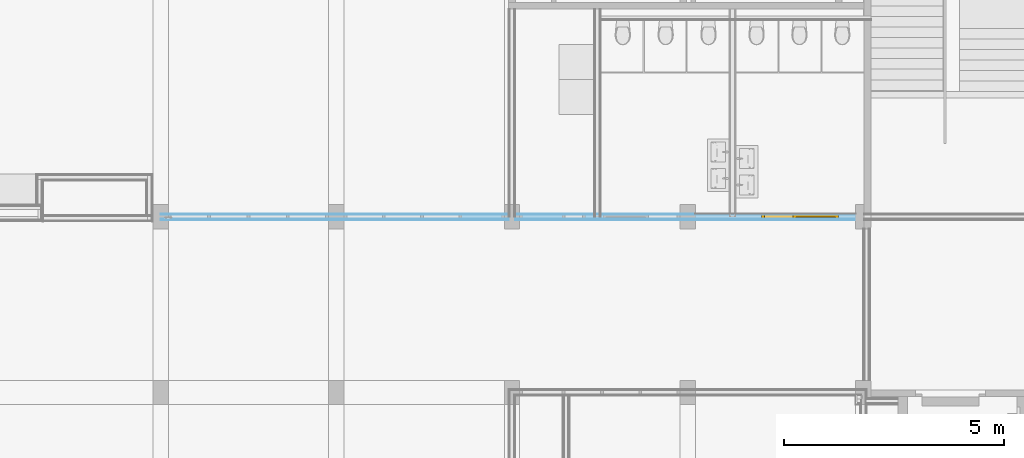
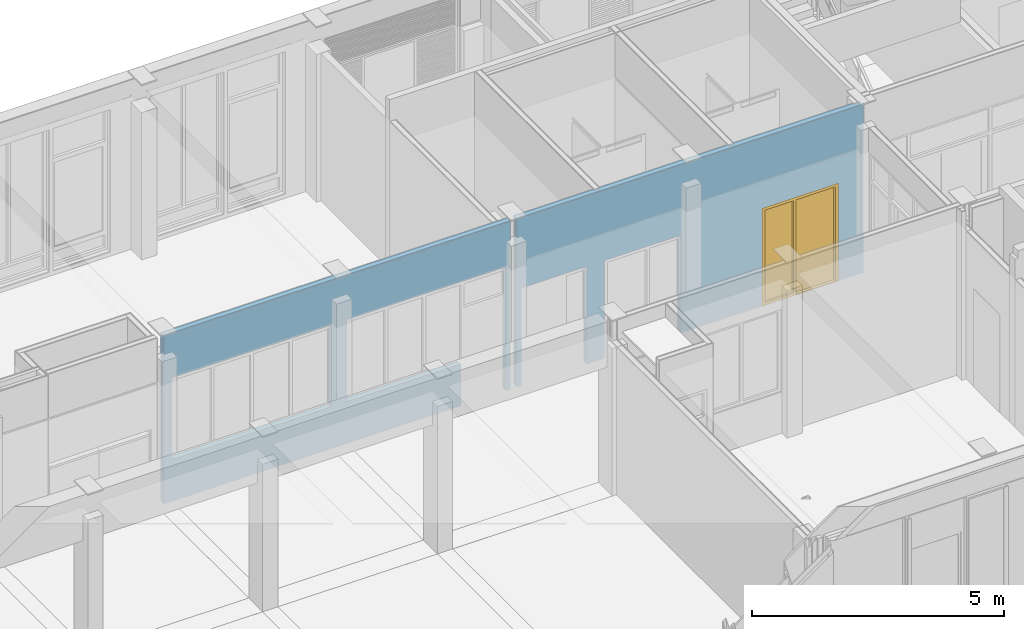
# One storey, part 63 of 109: 1 door, 5 openings, 1 element without a shape of its own, plus 5 elements that do not belong to this part.
"""IFC2X3 building model written with IfcOpenShell, lengths in millimetres."""

from ifc_helpers import new_model, entity, si_unit, converted_unit, derived_unit, money_unit, direction, frame, origin_with_axes, place, context, subcontext, project, spatial, open_shell, faceted_brep, surface_model, material, type_object, element, fill, aggregate, save


model = new_model("IFC2X3")

# Units and contexts
model_context = context("Model", 3, precision=0.01, world=origin_with_axes(), true_north=direction((0.0, 1.0)))
body_context = subcontext(model_context, "Body", "Model", "MODEL_VIEW")
ifc_project = project(units=[si_unit("LENGTHUNIT", "METRE", prefix="MILLI"), si_unit("AREAUNIT", "SQUARE_METRE"), si_unit("VOLUMEUNIT", "CUBIC_METRE"), converted_unit("PLANEANGLEUNIT", "DEGREE", entity("IfcPlaneAngleMeasure", 0.0174532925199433), si_unit("PLANEANGLEUNIT", "RADIAN"), dimensions=[0, 0, 0, 0, 0, 0, 0]), money_unit("EUR"), converted_unit("TIMEUNIT", "Year", entity("IfcTimeMeasure", 31557600.0), si_unit("TIMEUNIT", "SECOND"), dimensions=[0, 0, 1, 0, 0, 0, 0]), si_unit("MASSUNIT", "GRAM", prefix="KILO"), si_unit("THERMODYNAMICTEMPERATUREUNIT", "DEGREE_CELSIUS"), si_unit("LUMINOUSINTENSITYUNIT", "LUMEN"), si_unit("ENERGYUNIT", "JOULE", prefix="MEGA"), derived_unit("THERMALCONDUCTANCEUNIT", [(si_unit("POWERUNIT", "WATT"), 1), (si_unit("LENGTHUNIT", "METRE"), -1), (si_unit("THERMODYNAMICTEMPERATUREUNIT", "KELVIN"), -1)]), derived_unit("SPECIFICHEATCAPACITYUNIT", [(si_unit("ENERGYUNIT", "JOULE"), 1), (si_unit("MASSUNIT", "GRAM", prefix="KILO"), -1), (si_unit("THERMODYNAMICTEMPERATUREUNIT", "KELVIN"), -1)]), derived_unit("MASSDENSITYUNIT", [(si_unit("MASSUNIT", "GRAM", prefix="KILO"), 1), (si_unit("VOLUMEUNIT", "CUBIC_METRE"), -1)])], contexts=[model_context])

# Site, building, storey
site_placement = place(None, origin_with_axes())
site = spatial("IfcSite", under=ifc_project, at=site_placement, Name="<site naam>", CompositionType="ELEMENT")
building_placement = place(site_placement, origin_with_axes())
building = spatial("IfcBuilding", under=site, at=building_placement, Name="<Naam gebouw>", CompositionType="ELEMENT")
storey_placement = place(building_placement, origin_with_axes())
storey = spatial("IfcBuildingStorey", under=building, at=storey_placement, Name="00 Begane grond", CompositionType="ELEMENT", Elevation=0.0)

# Door
door_style = type_object("IfcDoorStyle", Name="D1 zl1-b 27", ConstructionType="NOTDEFINED", OperationType="SINGLE_SWING_RIGHT", ParameterTakesPrecedence=False, Sizeable=False)
wall_placement = place(storey_placement, frame((32000.05040030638, 11999.96371028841, 0.0), z_axis=(0.0, 0.0, 1.0), x_axis=(0.999999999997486, 2.242345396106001e-06, 0.0)))
opening_4_placement = place(wall_placement, frame((14554.32530861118, 0.0, 0.0), z_axis=(0.0, 0.0, 1.0), x_axis=(1.0, 0.0, 0.0)))
door_placement = place(opening_4_placement, frame((-874.999999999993, 0.0, 0.0), z_axis=(0.0, 0.0, 1.0), x_axis=(1.0, 0.0, 0.0)))
door = element("IfcDoor", 1, at=door_placement, inside=storey, type_object=door_style, Name="22_BI-C-01 sp_305", ObjectType="DOOR", OverallHeight=2367.0, OverallWidth=1750.0, context=body_context, shape_type="SurfaceModel", body=[
    faceted_brep([(766.0001658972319, -1.032391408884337, 12.00000000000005), (783.0001658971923, -1.03242952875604, 12.00000000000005), (782.9999999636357, -75.03242952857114, 12.00000000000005), (1682.999999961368, -75.03444763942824, 11.99999999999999), (1683.000165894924, -1.034447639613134, 11.99999999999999), (1700.000165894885, -1.034485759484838, 11.99999999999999), (1700.000255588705, 38.96551424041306, 11.99999999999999), (766.0002555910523, 38.96760859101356, 12.00000000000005), (766.0001658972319, -1.032391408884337, 0.0), (783.0001658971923, -1.03242952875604, 0.0), (782.9999999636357, -75.03242952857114, 0.0), (1682.999999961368, -75.03444763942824, 0.0), (1683.000165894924, -1.034447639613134, 0.0), (1700.000165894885, -1.034485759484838, 0.0), (1700.000255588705, 38.96551424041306, 0.0), (766.0002555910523, 38.96760859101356, 0.0)], [[[0, 1, 2, 3, 4, 5, 6, 7]], [[1, 0, 8, 9]], [[10, 2, 1, 9]], [[2, 10, 11, 3]], [[3, 11, 12, 4]], [[5, 4, 12, 13]], [[13, 14, 6, 5]], [[15, 7, 6, 14]], [[8, 0, 7, 15]], [[9, 8, 15, 14, 13, 12, 11, 10]]]),
    faceted_brep([(0.0002555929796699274, 38.96932622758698, 0.0), (67.00025559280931, 38.96917599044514, 0.0), (66.99999996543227, -75.03082400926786, 0.0), (-3.439737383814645e-08, -75.03067377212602, 0.0), (0.0002555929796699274, 38.96932622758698, 2300.0), (67.00025559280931, 38.96917599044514, 2300.0), (67.00025559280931, 38.96917599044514, 66.99999999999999), (66.99999996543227, -75.03082400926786, 67.0), (66.99999996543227, -75.03082400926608, 2300.0), (-3.439737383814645e-08, -75.03067377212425, 2300.0)], [[[0, 1, 2, 3]], [[0, 4, 5, 6, 1]], [[1, 6, 7, 2]], [[3, 2, 7, 8, 9]], [[4, 0, 3, 9]], [[5, 4, 9, 8]], [[6, 5, 8, 7]]]),
    faceted_brep([(783.0001658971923, -1.03242952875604, 0.0), (783.0001658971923, -1.03242952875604, 2300.0), (782.9999999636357, -75.03242952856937, 2300.0), (782.9999999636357, -75.03242952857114, 0.0), (766.0001658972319, -1.032391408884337, 2300.0), (766.0001658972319, -1.032391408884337, 0.0), (766.0002555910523, 38.96760859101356, 2300.0), (716.000255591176, 38.96772070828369, 2300.0), (715.9999999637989, -75.03227929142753, 2300.0), (715.9999999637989, -75.0322792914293, 0.0), (715.9999999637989, -75.0322792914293, 66.99999999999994), (716.000255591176, 38.96772070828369, 0.0), (766.0002555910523, 38.96760859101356, 0.0), (716.000255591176, 38.96772070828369, 66.99999999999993)], [[[0, 1, 2, 3]], [[4, 1, 0, 5]], [[4, 6, 7, 8, 2, 1]], [[9, 3, 2, 8, 10]], [[5, 0, 3, 9, 11, 12]], [[6, 4, 5, 12]], [[6, 12, 11, 13, 7]], [[13, 10, 8, 7]], [[11, 9, 10, 13]]]),
    faceted_brep([(67.00025559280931, 38.96917599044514, 66.99999999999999), (67.00025559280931, 38.96917599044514, 0.0), (66.99999996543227, -75.03082400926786, 0.0), (66.99999996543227, -75.03082400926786, 67.0), (716.000255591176, 38.96772070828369, 66.99999999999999), (716.000255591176, 38.96772070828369, 0.0), (715.9999999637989, -75.0322792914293, 0.0), (715.9999999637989, -75.0322792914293, 67.0)], [[[0, 1, 2, 3]], [[0, 4, 5, 1]], [[1, 5, 6, 2]], [[3, 2, 6, 7]], [[4, 0, 3, 7]], [[5, 4, 7, 6]]]),
    faceted_brep([(1700.000165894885, -1.034485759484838, 2300.0), (1683.000165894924, -1.034447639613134, 2300.0), (1682.999999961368, -75.03444763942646, 2300.0), (1749.999999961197, -75.03459787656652, 2300.0), (1750.000255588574, 38.9654021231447, 2300.0), (1700.000255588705, 38.96551424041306, 2300.0), (1700.000165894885, -1.034485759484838, 0.0), (1683.000165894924, -1.034447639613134, 0.0), (1682.999999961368, -75.03444763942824, 0.0), (1749.999999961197, -75.0345978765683, 0.0), (1750.000255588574, 38.9654021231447, 0.0), (1700.000255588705, 38.96551424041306, 0.0)], [[[0, 1, 2, 3, 4, 5]], [[1, 0, 6, 7]], [[1, 7, 8, 2]], [[3, 2, 8, 9]], [[4, 3, 9, 10]], [[11, 5, 4, 10]], [[0, 5, 11, 6]], [[6, 11, 10, 9, 8, 7]]]),
    faceted_brep([(766.0002555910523, 38.96760859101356, 2317.0), (766.0002555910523, 38.96760859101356, 2300.0), (716.000255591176, 38.96772070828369, 2300.0), (67.00025559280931, 38.96917599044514, 2300.0), (0.0002555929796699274, 38.96932622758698, 2300.0), (0.0002555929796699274, 38.96932622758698, 2367.0), (1750.000255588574, 38.9654021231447, 2367.0), (1750.000255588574, 38.9654021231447, 2300.0), (1700.000255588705, 38.96551424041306, 2300.0), (1700.000255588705, 38.96551424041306, 2317.0), (766.0001658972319, -1.032391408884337, 2317.0), (766.0001658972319, -1.032391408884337, 2300.0), (1683.000165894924, -1.034447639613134, 2300.0), (1682.999999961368, -75.03444763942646, 2300.0), (782.9999999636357, -75.03242952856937, 2300.0), (715.9999999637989, -75.03227929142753, 2300.0), (66.99999996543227, -75.03082400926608, 2300.0), (-3.439737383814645e-08, -75.03067377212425, 2300.0), (-3.439737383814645e-08, -75.03067377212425, 2367.0), (1749.999999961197, -75.03459787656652, 2367.0), (1749.999999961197, -75.03459787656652, 2300.0), (1700.000165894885, -1.034485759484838, 2300.0), (1700.000165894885, -1.034485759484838, 2317.0)], [[[0, 1, 2, 3, 4, 5, 6, 7, 8, 9]], [[1, 0, 10, 11]], [[11, 12, 13, 14, 15, 2, 1]], [[2, 15, 16, 3]], [[3, 16, 17, 4]], [[4, 17, 18, 5]], [[5, 18, 19, 6]], [[6, 19, 20, 7]], [[21, 8, 7, 20, 13, 12]], [[9, 8, 21, 22]], [[0, 9, 22, 10]], [[21, 12, 11, 10, 22]], [[13, 20, 19, 18, 17, 16, 15, 14]]]),
    faceted_brep([(1700.000255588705, 38.96551424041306, 11.99999999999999), (1700.000165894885, -1.034485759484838, 11.99999999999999), (766.0001658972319, -1.032391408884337, 11.99999999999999), (766.0002555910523, 38.96760859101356, 11.99999999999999), (1700.000255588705, 38.96551424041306, 2317.0), (1700.000165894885, -1.034485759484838, 2317.0), (766.0001658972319, -1.032391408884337, 2317.0), (766.0002555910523, 38.96760859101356, 2317.0)], [[[0, 1, 2, 3]], [[4, 5, 1, 0]], [[1, 5, 6, 2]], [[3, 2, 6, 7]], [[0, 3, 7, 4]], [[7, 6, 5, 4]]]),
    surface_model("IfcShellBasedSurfaceModel", [(67.00013450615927, -15.03082400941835, 66.99999999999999), (67.00013450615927, -15.03082400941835, 2300.0), (716.0001345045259, -15.0322792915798, 2300.0), (716.0001345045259, -15.0322792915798, 66.99999999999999)], [open_shell([[[0, 1, 2, 3]]])]),
    surface_model("IfcShellBasedSurfaceModel", [(67.00010759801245, -27.03082400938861, 66.99999999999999), (716.0001075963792, -27.03227929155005, 66.99999999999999), (716.0001075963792, -27.03227929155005, 2300.0), (67.00010759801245, -27.03082400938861, 2300.0)], [open_shell([[[0, 1, 2, 3]]])]),
])

# Wall, openings
wall_type = type_object("IfcWallType", Name="MS-01 GF 150 ECO DGS/2.100.2.A 150", PredefinedType="NOTDEFINED")
wall = element("IfcWall", 2, at=wall_placement, inside=storey, type_object=wall_type, Name="22_Binnenwand_MS-01")
opening_1_placement = place(wall_placement, frame((1999.982031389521, 0.0, 1000.0), z_axis=(0.0, 0.0, 1.0), x_axis=(1.0, 0.0, 0.0)))
element("IfcOpeningElement", 3, at=opening_1_placement, cuts=wall, Name="22_BI-E-01_305", context=body_context, shape_type="Brep", body=[
    faceted_brep([(1824.967290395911, 76.02730055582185, 2000.0), (1824.967290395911, 76.02730055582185, 0.0), (-1824.966613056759, 76.03548496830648, 0.0), (-1824.966613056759, 76.03548496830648, 2000.0), (1824.966949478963, -76.00857685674, 2000.0), (1824.966949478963, -76.00857685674, 0.0), (-1824.966953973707, -76.00039244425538, 0.0), (-1824.966953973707, -76.00039244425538, 2000.0)], [[[0, 1, 2, 3]], [[4, 5, 1, 0]], [[5, 6, 2, 1]], [[6, 7, 3, 2]], [[7, 4, 0, 3]], [[6, 5, 4, 7]]]),
])
opening_2_placement = place(wall_placement, frame((10949.95021639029, 0.0, 0.0), z_axis=(0.0, 0.0, 1.0), x_axis=(1.0, 0.0, 0.0)))
element("IfcOpeningElement", 4, at=opening_2_placement, cuts=wall, Name="22_BI-C-01_305", context=body_context, shape_type="Brep", body=[
    faceted_brep([(875.0003386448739, 76.00936178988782, 2367.0), (875.0003386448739, 76.00936178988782, 0.0), (-874.9996613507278, 76.0132858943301, 0.0), (-874.9996613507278, 76.0132858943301, 2367.0), (874.9999977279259, -76.02651562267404, 2367.0), (874.9999977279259, -76.02651562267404, 0.0), (-875.0000022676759, -76.02259151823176, 0.0), (-875.0000022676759, -76.02259151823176, 2367.0)], [[[0, 1, 2, 3]], [[4, 5, 1, 0]], [[5, 6, 2, 1]], [[6, 7, 3, 2]], [[7, 4, 0, 3]], [[6, 5, 4, 7]]]),
])
opening_3_placement = place(wall_placement, frame((8924.950216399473, 0.0, 0.0), z_axis=(0.0, 0.0, 1.0), x_axis=(1.0, 0.0, 0.0)))
element("IfcOpeningElement", 5, at=opening_3_placement, cuts=wall, Name="22_BI-C-02 sp_305", context=body_context, shape_type="Brep", body=[
    faceted_brep([(750.000338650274, 76.0141828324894, 2367.0), (750.000338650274, 76.0141828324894, 0.0), (-749.99966134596, 76.01754635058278, 0.0), (-749.99966134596, 76.01754635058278, 2367.0), (749.999997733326, -76.02169458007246, 2367.0), (749.999997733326, -76.02169458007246, 0.0), (-750.0000022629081, -76.01833106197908, 0.0), (-750.0000022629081, -76.01833106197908, 2367.0)], [[[0, 1, 2, 3]], [[4, 5, 1, 0]], [[5, 6, 2, 1]], [[6, 7, 3, 2]], [[7, 4, 0, 3]], [[6, 5, 4, 7]]]),
])
opening_4 = element("IfcOpeningElement", 6, at=opening_4_placement, cuts=wall, Name="22_BI-C-01 sp_305", context=body_context, shape_type="Brep", body=[
    faceted_brep([(875.0003386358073, 76.00127953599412, 2367.0), (875.0003386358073, 76.00127953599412, 0.0), (-874.9996613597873, 76.00520364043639, 0.0), (-874.9996613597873, 76.00520364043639, 2367.0), (874.9999977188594, -76.03459787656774, 2367.0), (874.9999977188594, -76.03459787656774, 0.0), (-875.0000022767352, -76.03067377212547, 0.0), (-875.0000022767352, -76.03067377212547, 2367.0)], [[[0, 1, 2, 3]], [[4, 5, 1, 0]], [[5, 6, 2, 1]], [[6, 7, 3, 2]], [[7, 4, 0, 3]], [[6, 5, 4, 7]]]),
])

fill(opening_4, door)

# Opening
opening_5_placement = place(wall_placement, frame((5999.95021640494, 0.0, 0.0), z_axis=(0.0, 0.0, 1.0), x_axis=(1.0, 0.0, 0.0)))
element("IfcOpeningElement", 7, at=opening_5_placement, cuts=wall, Name="22_BI-E-02_305", context=body_context, shape_type="Brep", body=[
    faceted_brep([(1825.000338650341, 76.01833117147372, 3000.0), (1825.000338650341, 76.01833117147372, 0.0), (791.0003386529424, 76.02064975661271, 0.0), (791.0003386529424, 76.02064975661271, 1000.0), (-1824.999661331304, 76.02651573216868, 1000.0), (-1824.999661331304, 76.02651573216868, 3000.0), (1824.999997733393, -76.01754624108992, 3000.0), (1824.999997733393, -76.01754624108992, 0.0), (790.9999977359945, -76.01522765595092, 0.0), (790.9999977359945, -76.01522765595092, 1000.0), (-1825.000002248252, -76.00936168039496, 1000.0), (-1825.000002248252, -76.00936168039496, 3000.0)], [[[0, 1, 2, 3, 4, 5]], [[6, 7, 1, 0]], [[7, 8, 2, 1]], [[8, 9, 3, 2]], [[9, 10, 4, 3]], [[10, 11, 5, 4]], [[11, 6, 0, 5]], [[8, 7, 6, 11, 10, 9]]]),
])

# Building element part
ifc_material_1 = material(Name="gipsplaat")
building_element_part_1_placement = place(wall_placement, origin_with_axes())
building_element_part_1 = element("IfcBuildingElementPart", 8, at=building_element_part_1_placement, material=ifc_material_1, Name="gipsplaat", context=body_context, shape_type="Brep", body=[
    faceted_brep([(8174.949767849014, 74.98166893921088, 3.000000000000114), (8174.949767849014, 74.98166893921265, 0.0), (8074.949767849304, 74.98189317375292, 0.0), (8074.949767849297, 74.98189317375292, 3000.0), (9874.949767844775, 74.97785695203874, 3000.0), (9874.949767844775, 74.97785695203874, 3040.0), (8074.949767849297, 74.98189317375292, 3040.0), (8074.949767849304, 74.98189317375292, 4070.0), (15999.94976787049, 74.9641225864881, 4070.0), (15999.94976787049, 74.9641225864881, 3040.0), (10024.9497678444, 74.97752060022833, 3040.0), (10024.9497678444, 74.97752060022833, 3000.0), (15999.94976787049, 74.9641225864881, 3000.0), (15999.94976787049, 74.9641225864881, 0.0), (9874.949767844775, 74.97785695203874, 0.0), (9874.949767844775, 74.97785695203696, 3.000000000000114), (8174.949764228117, 73.3668869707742, 3.000000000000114), (8174.949764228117, 73.3668869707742, 0.0), (9874.949764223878, 73.36307498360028, 0.0), (15999.94973984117, 62.46412258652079, 0.0), (8074.949739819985, 62.48189317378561, 0.0), (8074.949765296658, 73.84351580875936, 3000.0), (8074.949739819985, 62.48189317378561, 4070.0), (8074.949765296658, 73.84351580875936, 3040.0), (9874.949765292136, 73.83947958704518, 3000.0), (9874.949765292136, 73.83947958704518, 3040.0), (15999.94973984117, 62.46412258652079, 4070.0), (15999.94976531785, 73.82574522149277, 3000.0), (15999.94976531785, 73.82574522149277, 3040.0), (10024.94976529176, 73.83914323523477, 3040.0), (10024.94976529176, 73.83914323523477, 3000.0), (9874.949764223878, 73.36307498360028, 3.000000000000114)], [[[0, 1, 2, 3, 4, 5, 6, 7, 8, 9, 10, 11, 12, 13, 14, 15]], [[1, 0, 16, 17]], [[18, 14, 13, 19, 20, 2, 1, 17]], [[21, 3, 2, 20, 22, 7, 6, 23]], [[4, 3, 21, 24]], [[5, 4, 24, 25]], [[6, 5, 25, 23]], [[22, 26, 8, 7]], [[27, 28, 9, 8, 26, 19, 13, 12]], [[10, 9, 28, 29]], [[11, 10, 29, 30]], [[27, 12, 11, 30]], [[15, 14, 18, 31]], [[0, 15, 31, 16]], [[18, 17, 16, 31]], [[20, 19, 26, 22]], [[21, 23, 25, 24]], [[28, 27, 30, 29]]]),
    faceted_brep([(12174.94982266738, 74.85548343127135, 3560.0), (12174.94982266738, 74.85548343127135, 3600.0), (12174.94981983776, 73.59358608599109, 3600.0), (12174.94981983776, 73.59358608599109, 3560.0), (15824.94983563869, 74.8472988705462, 3560.0), (15824.94983563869, 74.8472988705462, 3600.0), (15824.94983280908, 73.58540152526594, 3600.0), (15824.94983280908, 73.58540152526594, 3560.0)], [[[0, 1, 2, 3]], [[4, 5, 1, 0]], [[1, 5, 6, 2]], [[3, 2, 6, 7]], [[0, 3, 7, 4]], [[7, 6, 5, 4]]]),
    faceted_brep([(7924.949767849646, 74.98222952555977, 3.000000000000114), (0.0001681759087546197, 74.99999999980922, 3.000000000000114), (0.0001681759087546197, 74.999999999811, 4070.0), (7924.949767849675, 74.98222952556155, 4070.0), (7824.811571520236, 74.98245406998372, 3700.0), (7824.949806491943, 74.982453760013, 3700.0), (7824.949806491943, 74.982453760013, 3740.0), (7824.811571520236, 74.98245406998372, 3740.0), (7924.949739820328, 62.48222952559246, 3.000000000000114), (0.0001401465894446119, 62.4999999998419, 3.000000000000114), (0.0001401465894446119, 62.4999999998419, 4070.0), (7924.949739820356, 62.48222952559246, 4070.0), (7824.811552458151, 66.48149438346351, 3700.0), (7824.949787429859, 66.4814940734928, 3700.0), (7824.949787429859, 66.4814940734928, 3740.0), (7824.811552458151, 66.48149438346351, 3740.0)], [[[0, 1, 2, 3], [4, 5, 6, 7]], [[1, 0, 8, 9]], [[1, 9, 10, 2]], [[11, 3, 2, 10]], [[8, 0, 3, 11]], [[5, 4, 12, 13]], [[6, 5, 13, 14]], [[7, 6, 14, 15]], [[4, 7, 15, 12]], [[9, 8, 11, 10]], [[12, 15, 14, 13]]]),
])

building_element_part_2_placement = place(wall_placement, origin_with_axes())
building_element_part_2 = element("IfcBuildingElementPart", 9, at=building_element_part_2_placement, material=ifc_material_1, Name="gipsplaat", context=body_context, shape_type="Brep", body=[
    faceted_brep([(8074.949711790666, 49.98189317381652, 4070.0), (15999.94971181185, 49.9641225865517, 4070.0), (15999.94973984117, 62.46412258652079, 4070.0), (8074.949739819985, 62.48189317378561, 4070.0), (8074.949711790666, 49.98189317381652, 0.0), (15999.94971181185, 49.9641225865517, 0.0), (15999.94973984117, 62.46412258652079, 0.0), (8074.949739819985, 62.48189317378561, 0.0)], [[[0, 1, 2, 3]], [[4, 5, 1, 0]], [[2, 1, 5, 6]], [[3, 2, 6, 7]], [[4, 0, 3, 7]], [[7, 6, 5, 4]]]),
    faceted_brep([(7924.949711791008, 49.98222952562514, 3.000000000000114), (7924.949739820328, 62.48222952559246, 3.000000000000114), (7924.949739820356, 62.48222952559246, 4070.0), (7924.949711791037, 49.98222952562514, 4070.0), (0.0001401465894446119, 62.4999999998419, 3.000000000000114), (0.000112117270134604, 49.99999999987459, 3.000000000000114), (0.0001401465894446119, 62.4999999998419, 4070.0), (0.000112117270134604, 49.99999999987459, 4070.0)], [[[0, 1, 2, 3]], [[4, 1, 0, 5]], [[1, 4, 6, 2]], [[3, 2, 6, 7]], [[5, 0, 3, 7]], [[4, 5, 7, 6]]]),
])

building_element_part_3_placement = place(wall_placement, origin_with_axes())
building_element_part_3 = element("IfcBuildingElementPart", 10, at=building_element_part_3_placement, material=ifc_material_1, Name="gipsplaat", context=body_context, shape_type="Brep", body=[
    faceted_brep([(8074.949459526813, -62.51810682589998, 4070.0), (15999.949459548, -62.5358774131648, 4070.0), (15999.94948757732, -50.03587741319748, 4070.0), (8074.949487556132, -50.01810682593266, 4070.0), (8074.949459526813, -62.51810682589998, 0.0), (15999.949459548, -62.5358774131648, 0.0), (15999.94948757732, -50.03587741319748, 0.0), (8074.949487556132, -50.01810682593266, 0.0)], [[[0, 1, 2, 3]], [[4, 5, 1, 0]], [[2, 1, 5, 6]], [[3, 2, 6, 7]], [[4, 0, 3, 7]], [[7, 6, 5, 4]]]),
    faceted_brep([(7924.949459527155, -62.51777047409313, 3.000000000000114), (7924.949487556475, -50.01777047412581, 3.000000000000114), (7924.949487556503, -50.01777047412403, 4070.0), (7924.949459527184, -62.51777047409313, 4070.0), (-0.0001121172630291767, -49.99999999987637, 3.000000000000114), (-0.0001401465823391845, -62.49999999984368, 3.000000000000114), (-0.0001121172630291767, -49.99999999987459, 4070.0), (-0.0001401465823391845, -62.49999999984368, 4070.0)], [[[0, 1, 2, 3]], [[4, 1, 0, 5]], [[1, 4, 6, 2]], [[3, 2, 6, 7]], [[5, 0, 3, 7]], [[4, 5, 7, 6]]]),
])

building_element_part_4_placement = place(wall_placement, origin_with_axes())
building_element_part_4 = element("IfcBuildingElementPart", 11, at=building_element_part_4_placement, material=ifc_material_1, Name="gipsplaat", context=body_context, shape_type="Brep", body=[
    faceted_brep([(15999.94943160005, -74.99958850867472, 3.000000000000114), (15999.94943160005, -74.99958850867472, 0.0), (15999.949459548, -62.5358774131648, 0.0), (15999.949459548, -62.5358774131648, 4070.0), (15999.94943151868, -75.03587741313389, 4070.0), (15999.94943151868, -75.03587741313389, 3040.0), (15999.94943951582, -71.46945885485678, 3040.0), (15999.94943951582, -71.46945885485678, 3000.0), (15999.94943151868, -75.03587741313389, 3000.0), (15999.94943151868, -75.03587741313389, 3.000000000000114), (8074.949431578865, -74.9818179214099, 3.000000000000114), (8074.949431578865, -74.9818179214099, 0.0), (8074.949459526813, -62.51810682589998, 0.0), (8074.949459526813, -62.51810682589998, 4070.0), (8074.949431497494, -75.01810682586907, 4070.0), (8074.949431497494, -75.01810682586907, 3040.0), (8074.949439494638, -71.45168826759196, 3040.0), (8074.949439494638, -71.45168826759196, 3000.0), (8074.949431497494, -75.01810682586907, 3000.0), (8074.949431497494, -75.01810682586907, 3.000000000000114)], [[[0, 1, 2, 3, 4, 5, 6, 7, 8, 9]], [[1, 0, 10, 11]], [[1, 11, 12, 2]], [[13, 3, 2, 12]], [[14, 4, 3, 13]], [[15, 5, 4, 14]], [[6, 5, 15, 16]], [[7, 6, 16, 17]], [[8, 7, 17, 18]], [[19, 9, 8, 18]], [[0, 9, 19, 10]], [[10, 19, 18, 17, 16, 15, 14, 13, 12, 11]]]),
    faceted_brep([(7924.949431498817, -75.01733463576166, 3.000000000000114), (7924.949459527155, -62.51777047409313, 3.000000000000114), (7924.949459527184, -62.51777047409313, 4070.0), (7924.949431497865, -75.01777047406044, 4070.0), (7924.949431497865, -75.01777047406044, 3040.0), (7924.949439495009, -71.45135191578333, 3040.0), (7924.949439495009, -71.45135191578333, 3000.0), (7924.949431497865, -75.01777047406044, 3000.0), (-0.0001401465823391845, -62.49999999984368, 3.000000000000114), (-0.000168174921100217, -74.99956416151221, 3.000000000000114), (-0.0001401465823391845, -62.49999999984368, 4070.0), (-0.0001681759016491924, -74.999999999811, 4070.0), (7824.811232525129, -75.01754592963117, 3000.0), (7824.811232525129, -75.01754592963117, 3040.0), (7824.811240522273, -71.45112737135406, 3040.0), (7824.811240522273, -71.45112737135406, 3000.0)], [[[0, 1, 2, 3, 4, 5, 6, 7]], [[8, 1, 0, 9]], [[1, 8, 10, 2]], [[3, 2, 10, 11]], [[9, 0, 7, 12, 13, 4, 3, 11]], [[5, 4, 13, 14]], [[6, 5, 14, 15]], [[7, 6, 15, 12]], [[8, 9, 11, 10]], [[13, 12, 15, 14]]]),
])

ifc_material_2 = material(Name="isolatie_steenwol LSW")
building_element_part_5_placement = place(wall_placement, origin_with_axes())
building_element_part_5 = element("IfcBuildingElementPart", 12, at=building_element_part_5_placement, material=ifc_material_2, Name="isolatie_steenwol LSW", context=body_context, shape_type="Brep", body=[
    faceted_brep([(8074.949487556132, -50.01810682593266, 4070.0), (15999.94948757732, -50.03587741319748, 4070.0), (15999.94971181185, 49.9641225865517, 4070.0), (8074.949711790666, 49.98189317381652, 4070.0), (8074.949487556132, -50.01810682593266, 0.0), (15999.94948757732, -50.03587741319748, 0.0), (15999.94971181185, 49.9641225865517, 0.0), (8074.949711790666, 49.98189317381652, 0.0)], [[[0, 1, 2, 3]], [[4, 5, 1, 0]], [[2, 1, 5, 6]], [[3, 2, 6, 7]], [[4, 0, 3, 7]], [[7, 6, 5, 4]]]),
    faceted_brep([(7924.949487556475, -50.01777047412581, 3.000000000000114), (7924.949711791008, 49.98222952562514, 3.000000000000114), (7924.949711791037, 49.98222952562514, 4070.0), (7924.949487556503, -50.01777047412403, 4070.0), (0.000112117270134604, 49.99999999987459, 3.000000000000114), (-0.0001121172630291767, -49.99999999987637, 3.000000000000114), (0.000112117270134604, 49.99999999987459, 4070.0), (-0.0001121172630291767, -49.99999999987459, 4070.0)], [[[0, 1, 2, 3]], [[4, 1, 0, 5]], [[1, 4, 6, 2]], [[3, 2, 6, 7]], [[5, 0, 3, 7]], [[4, 5, 7, 6]]]),
])

aggregate(wall, [building_element_part_1, building_element_part_2, building_element_part_3, building_element_part_4, building_element_part_5])

save(model, "model.ifc")
